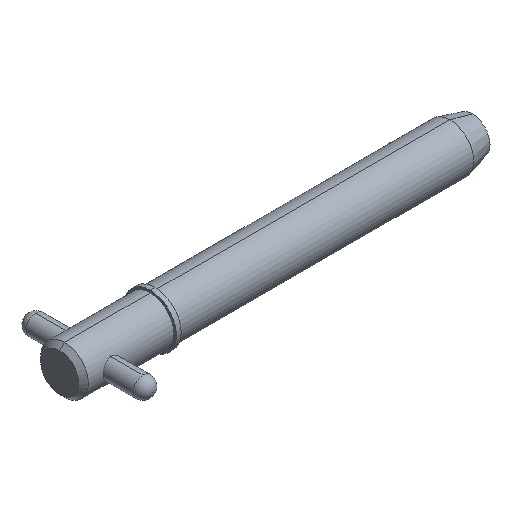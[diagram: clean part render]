
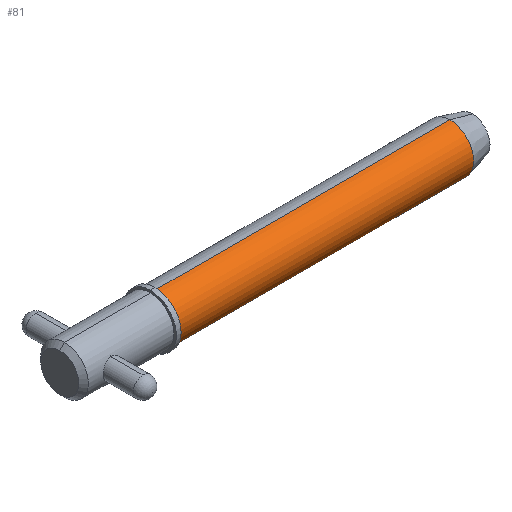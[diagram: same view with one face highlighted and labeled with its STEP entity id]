
A CAD part, isometric view. The second image highlights one B-rep face of the part: STEP entity #81.
In plain terms, the highlighted cylindrical face has radius 4.765 mm (diameter 9.53 mm), a partial arc.
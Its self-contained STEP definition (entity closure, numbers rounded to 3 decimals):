
#81 = ADVANCED_FACE ( 'NONE', ( #295 ), #129, .T. ) ;
#86 = ORIENTED_EDGE ( 'NONE', *, *, #945, .F. ) ;
#88 = DIRECTION ( 'NONE',  ( 1., 0., 0. ) ) ;
#129 = CYLINDRICAL_SURFACE ( 'NONE', #662, 4.765 ) ;
#142 = CIRCLE ( 'NONE', #735, 4.765 ) ;
#155 = DIRECTION ( 'NONE',  ( 1., 0., 0. ) ) ;
#161 = CARTESIAN_POINT ( 'NONE',  ( 78.104, 0., 0. ) ) ;
#182 = AXIS2_PLACEMENT_3D ( 'NONE', #801, #88, #643 ) ;
#237 = EDGE_LOOP ( 'NONE', ( #317, #415, #433, #86 ) ) ;
#238 = CARTESIAN_POINT ( 'NONE',  ( 78.104, 0., -4.765 ) ) ;
#295 = FACE_OUTER_BOUND ( 'NONE', #237, .T. ) ;
#301 = EDGE_CURVE ( 'NONE', #410, #912, #630, .T. ) ;
#317 = ORIENTED_EDGE ( 'NONE', *, *, #1003, .F. ) ;
#318 = LINE ( 'NONE', #475, #648 ) ;
#399 = CARTESIAN_POINT ( 'NONE',  ( 19.05, 0., -4.765 ) ) ;
#408 = CARTESIAN_POINT ( 'NONE',  ( 19.05, 0., 4.765 ) ) ;
#410 = VERTEX_POINT ( 'NONE', #408 ) ;
#415 = ORIENTED_EDGE ( 'NONE', *, *, #301, .T. ) ;
#433 = ORIENTED_EDGE ( 'NONE', *, *, #814, .T. ) ;
#438 = CARTESIAN_POINT ( 'NONE',  ( 0., 0., 0. ) ) ;
#475 = CARTESIAN_POINT ( 'NONE',  ( 0., 0., 4.765 ) ) ;
#492 = DIRECTION ( 'NONE',  ( 1., 0., 0. ) ) ;
#617 = CARTESIAN_POINT ( 'NONE',  ( 78.104, 0., 4.765 ) ) ;
#625 = LINE ( 'NONE', #893, #983 ) ;
#630 = CIRCLE ( 'NONE', #182, 4.765 ) ;
#632 = VERTEX_POINT ( 'NONE', #617 ) ;
#643 = DIRECTION ( 'NONE',  ( 0., 0., -1. ) ) ;
#648 = VECTOR ( 'NONE', #649, 1000. ) ;
#649 = DIRECTION ( 'NONE',  ( 1., 0., 0. ) ) ;
#662 = AXIS2_PLACEMENT_3D ( 'NONE', #438, #704, #1011 ) ;
#704 = DIRECTION ( 'NONE',  ( 1., 0., 0. ) ) ;
#735 = AXIS2_PLACEMENT_3D ( 'NONE', #161, #155, #805 ) ;
#801 = CARTESIAN_POINT ( 'NONE',  ( 19.05, 0., 0. ) ) ;
#805 = DIRECTION ( 'NONE',  ( 0., 0., -1. ) ) ;
#814 = EDGE_CURVE ( 'NONE', #912, #976, #625, .T. ) ;
#893 = CARTESIAN_POINT ( 'NONE',  ( 0., 0., -4.765 ) ) ;
#912 = VERTEX_POINT ( 'NONE', #399 ) ;
#945 = EDGE_CURVE ( 'NONE', #632, #976, #142, .T. ) ;
#976 = VERTEX_POINT ( 'NONE', #238 ) ;
#983 = VECTOR ( 'NONE', #492, 1000. ) ;
#1003 = EDGE_CURVE ( 'NONE', #410, #632, #318, .T. ) ;
#1011 = DIRECTION ( 'NONE',  ( 0., 0., -1. ) ) ;
